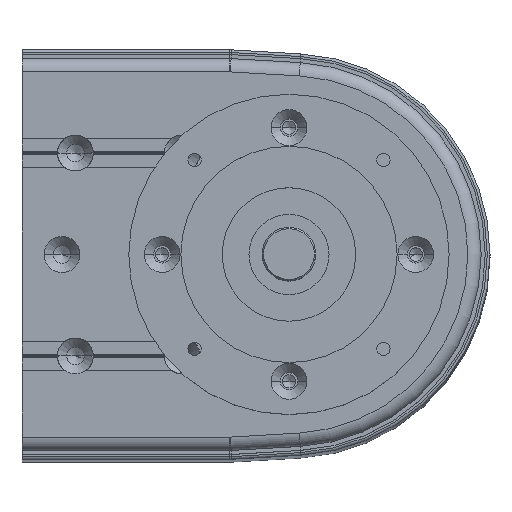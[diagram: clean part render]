
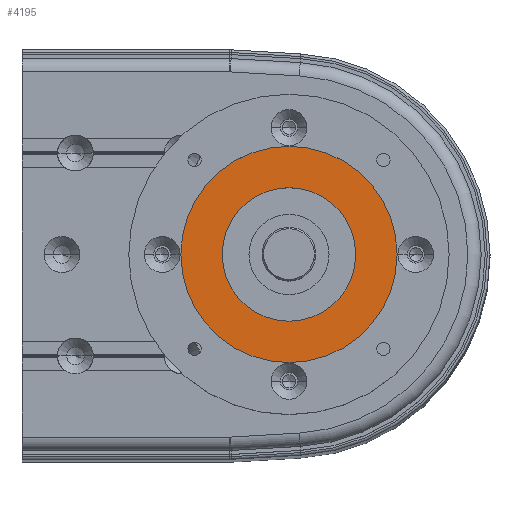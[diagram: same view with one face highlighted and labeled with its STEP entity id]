
A CAD part, top view. The second image highlights one B-rep face of the part: STEP entity #4195.
In plain terms, the highlighted planar face has unit normal (0, 0, 1).
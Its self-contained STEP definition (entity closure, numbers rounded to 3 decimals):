
#425 = DIRECTION ( 'NONE',  ( 1., 0., 0. ) ) ;
#931 = AXIS2_PLACEMENT_3D ( 'NONE', #4868, #2510, #2392 ) ;
#1132 = CARTESIAN_POINT ( 'NONE',  ( 0., 0., 331.5 ) ) ;
#1497 = CIRCLE ( 'NONE', #931, 25. ) ;
#1517 = ORIENTED_EDGE ( 'NONE', *, *, #6836, .T. ) ;
#1532 = CARTESIAN_POINT ( 'NONE',  ( 40.5, 0., 331.5 ) ) ;
#1628 = DIRECTION ( 'NONE',  ( 0., 0., 1. ) ) ;
#2073 = EDGE_CURVE ( 'NONE', #4403, #6818, #6649, .T. ) ;
#2392 = DIRECTION ( 'NONE',  ( 1., 0., 0. ) ) ;
#2510 = DIRECTION ( 'NONE',  ( 0., 0., -1. ) ) ;
#3012 = FACE_OUTER_BOUND ( 'NONE', #4695, .T. ) ;
#3214 = PLANE ( 'NONE',  #3959 ) ;
#3262 = DIRECTION ( 'NONE',  ( 1., 0., 0. ) ) ;
#3860 = VERTEX_POINT ( 'NONE', #6913 ) ;
#3959 = AXIS2_PLACEMENT_3D ( 'NONE', #6536, #1628, #9003 ) ;
#3964 = CARTESIAN_POINT ( 'NONE',  ( 0., 0., 331.5 ) ) ;
#4195 = ADVANCED_FACE ( 'NONE', ( #3012, #8761 ), #3214, .T. ) ;
#4267 = CIRCLE ( 'NONE', #9874, 25. ) ;
#4403 = VERTEX_POINT ( 'NONE', #8049 ) ;
#4566 = EDGE_LOOP ( 'NONE', ( #4811, #9561 ) ) ;
#4695 = EDGE_LOOP ( 'NONE', ( #1517, #10257 ) ) ;
#4785 = CARTESIAN_POINT ( 'NONE',  ( 0., 0., 331.5 ) ) ;
#4811 = ORIENTED_EDGE ( 'NONE', *, *, #8850, .T. ) ;
#4868 = CARTESIAN_POINT ( 'NONE',  ( 0., 0., 331.5 ) ) ;
#4876 = CARTESIAN_POINT ( 'NONE',  ( -25., 0., 331.5 ) ) ;
#5626 = DIRECTION ( 'NONE',  ( 0., 0., 1. ) ) ;
#6183 = VERTEX_POINT ( 'NONE', #4876 ) ;
#6536 = CARTESIAN_POINT ( 'NONE',  ( 0., 0., 331.5 ) ) ;
#6594 = CIRCLE ( 'NONE', #9178, 40.5 ) ;
#6649 = CIRCLE ( 'NONE', #9143, 40.5 ) ;
#6818 = VERTEX_POINT ( 'NONE', #1532 ) ;
#6836 = EDGE_CURVE ( 'NONE', #6818, #4403, #6594, .T. ) ;
#6913 = CARTESIAN_POINT ( 'NONE',  ( 25., 0., 331.5 ) ) ;
#7451 = EDGE_CURVE ( 'NONE', #3860, #6183, #4267, .T. ) ;
#7983 = DIRECTION ( 'NONE',  ( 0., 0., -1. ) ) ;
#8049 = CARTESIAN_POINT ( 'NONE',  ( -40.5, 0., 331.5 ) ) ;
#8558 = DIRECTION ( 'NONE',  ( 0., 0., 1. ) ) ;
#8761 = FACE_BOUND ( 'NONE', #4566, .T. ) ;
#8850 = EDGE_CURVE ( 'NONE', #6183, #3860, #1497, .T. ) ;
#8887 = DIRECTION ( 'NONE',  ( 1., 0., 0. ) ) ;
#9003 = DIRECTION ( 'NONE',  ( 1., 0., 0. ) ) ;
#9143 = AXIS2_PLACEMENT_3D ( 'NONE', #1132, #8558, #425 ) ;
#9178 = AXIS2_PLACEMENT_3D ( 'NONE', #4785, #5626, #3262 ) ;
#9561 = ORIENTED_EDGE ( 'NONE', *, *, #7451, .T. ) ;
#9874 = AXIS2_PLACEMENT_3D ( 'NONE', #3964, #7983, #8887 ) ;
#10257 = ORIENTED_EDGE ( 'NONE', *, *, #2073, .T. ) ;
